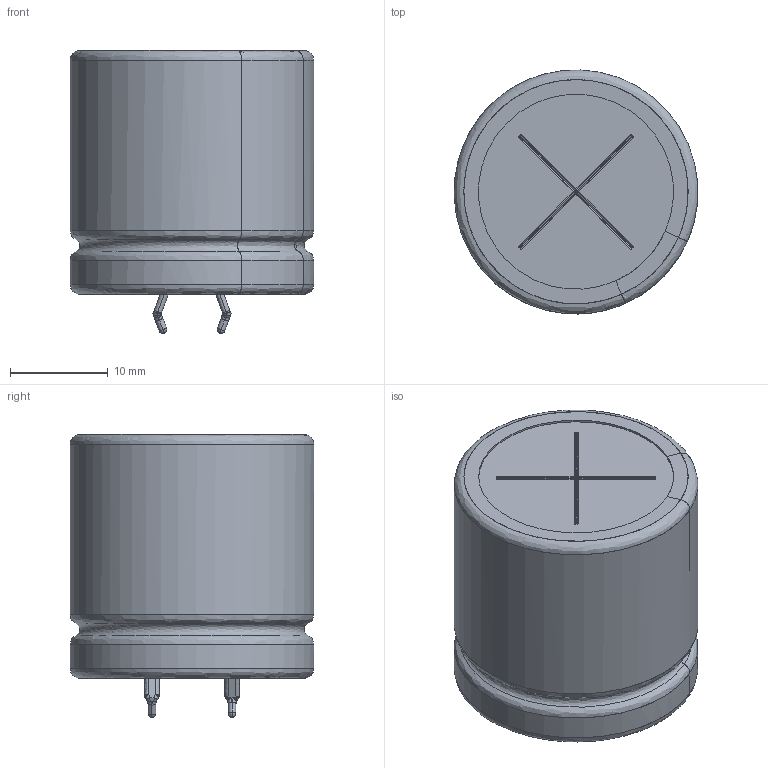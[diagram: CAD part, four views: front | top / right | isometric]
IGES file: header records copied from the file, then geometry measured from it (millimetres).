
Start section: JAMA-IS VERSION  1.0
Bounding box: 24.99 x 24.99 x 29.02 mm (x, y, z)
Surface area: 7608.9 mm2 (no closed solid volume)
Topology: 0 solids, 0 shells, 208 faces, 2226 edges, 2190 vertices
Faces by surface type: bspline 208
